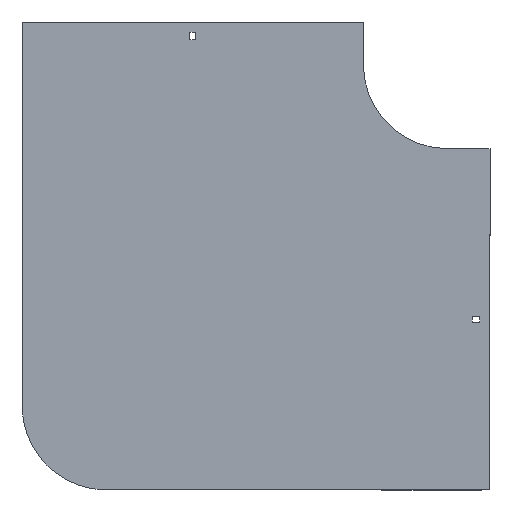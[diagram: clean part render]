
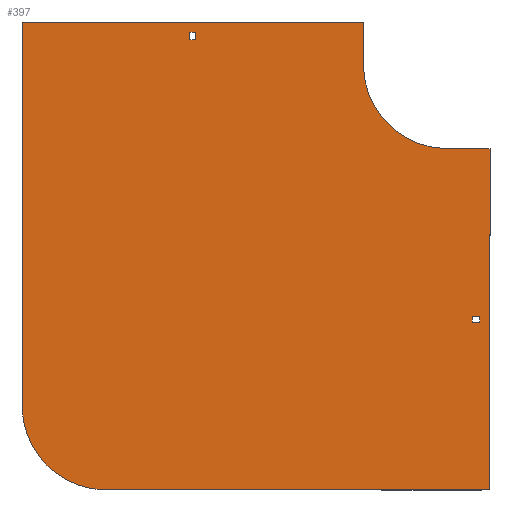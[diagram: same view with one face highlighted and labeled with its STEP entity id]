
A CAD part, front view. The second image highlights one B-rep face of the part: STEP entity #397.
In plain terms, the highlighted planar face has unit normal (0, -1, 0).
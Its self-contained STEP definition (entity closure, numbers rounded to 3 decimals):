
#5 = VECTOR ( 'NONE', #1516, 1000. ) ;
#21 = DIRECTION ( 'NONE',  ( 0., 0., 1. ) ) ;
#27 = VERTEX_POINT ( 'NONE', #1871 ) ;
#49 = VERTEX_POINT ( 'NONE', #1244 ) ;
#64 = VECTOR ( 'NONE', #1026, 1000. ) ;
#67 = EDGE_CURVE ( 'NONE', #1108, #333, #811, .T. ) ;
#70 = CARTESIAN_POINT ( 'NONE',  ( 29., 0., -305.25 ) ) ;
#72 = LINE ( 'NONE', #1107, #1093 ) ;
#89 = VECTOR ( 'NONE', #1649, 1000. ) ;
#102 = FACE_BOUND ( 'NONE', #958, .T. ) ;
#117 = CARTESIAN_POINT ( 'NONE',  ( 0., 0., -100. ) ) ;
#137 = EDGE_CURVE ( 'NONE', #1190, #1368, #903, .T. ) ;
#143 = LINE ( 'NONE', #559, #1104 ) ;
#146 = DIRECTION ( 'NONE',  ( -1., 0., 0. ) ) ;
#165 = EDGE_LOOP ( 'NONE', ( #484, #1584, #321, #557 ) ) ;
#179 = ORIENTED_EDGE ( 'NONE', *, *, #1350, .T. ) ;
#182 = ORIENTED_EDGE ( 'NONE', *, *, #707, .T. ) ;
#185 = CARTESIAN_POINT ( 'NONE',  ( -305.25, 0., 29. ) ) ;
#218 = DIRECTION ( 'NONE',  ( 0., -1., 0. ) ) ;
#252 = ORIENTED_EDGE ( 'NONE', *, *, #1777, .F. ) ;
#256 = FACE_OUTER_BOUND ( 'NONE', #1857, .T. ) ;
#266 = DIRECTION ( 'NONE',  ( 1., 0., 0. ) ) ;
#267 = CARTESIAN_POINT ( 'NONE',  ( -100., 0., 50. ) ) ;
#321 = ORIENTED_EDGE ( 'NONE', *, *, #917, .F. ) ;
#333 = VERTEX_POINT ( 'NONE', #1725 ) ;
#349 = CARTESIAN_POINT ( 'NONE',  ( -305.25, 0., 29. ) ) ;
#366 = CARTESIAN_POINT ( 'NONE',  ( -404., 0., -504. ) ) ;
#374 = EDGE_CURVE ( 'NONE', #1801, #738, #552, .T. ) ;
#381 = DIRECTION ( 'NONE',  ( 1., 0., 0. ) ) ;
#397 = ADVANCED_FACE ( 'NONE', ( #102, #256, #963 ), #1576, .T. ) ;
#423 = CARTESIAN_POINT ( 'NONE',  ( 50., 0., -100. ) ) ;
#445 = ORIENTED_EDGE ( 'NONE', *, *, #519, .F. ) ;
#451 = CARTESIAN_POINT ( 'NONE',  ( 50., 0., -100. ) ) ;
#479 = CARTESIAN_POINT ( 'NONE',  ( 0., 0., -100. ) ) ;
#484 = ORIENTED_EDGE ( 'NONE', *, *, #1116, .F. ) ;
#492 = EDGE_CURVE ( 'NONE', #1621, #1801, #836, .T. ) ;
#519 = EDGE_CURVE ( 'NONE', #738, #1386, #714, .T. ) ;
#552 = CIRCLE ( 'NONE', #1360, 100. ) ;
#557 = ORIENTED_EDGE ( 'NONE', *, *, #1377, .F. ) ;
#559 = CARTESIAN_POINT ( 'NONE',  ( 29., 0., -305.25 ) ) ;
#568 = LINE ( 'NONE', #889, #1495 ) ;
#577 = CARTESIAN_POINT ( 'NONE',  ( -100., 0., 0. ) ) ;
#584 = LINE ( 'NONE', #423, #649 ) ;
#608 = CARTESIAN_POINT ( 'NONE',  ( 29., 0., -305.25 ) ) ;
#624 = ORIENTED_EDGE ( 'NONE', *, *, #137, .T. ) ;
#649 = VECTOR ( 'NONE', #1658, 1000. ) ;
#656 = DIRECTION ( 'NONE',  ( 1., 0., 0. ) ) ;
#674 = DIRECTION ( 'NONE',  ( 0., 0., 1. ) ) ;
#678 = LINE ( 'NONE', #1599, #1434 ) ;
#688 = CARTESIAN_POINT ( 'NONE',  ( 29., 0., -298.75 ) ) ;
#707 = EDGE_CURVE ( 'NONE', #1368, #1082, #940, .T. ) ;
#714 = LINE ( 'NONE', #117, #1513 ) ;
#728 = LINE ( 'NONE', #1483, #1151 ) ;
#732 = DIRECTION ( 'NONE',  ( 0., -1., 0. ) ) ;
#733 = DIRECTION ( 'NONE',  ( 0., 0., -1. ) ) ;
#737 = VERTEX_POINT ( 'NONE', #1546 ) ;
#738 = VERTEX_POINT ( 'NONE', #479 ) ;
#757 = VERTEX_POINT ( 'NONE', #366 ) ;
#759 = VERTEX_POINT ( 'NONE', #688 ) ;
#773 = CARTESIAN_POINT ( 'NONE',  ( 38., 0., -305.25 ) ) ;
#776 = CARTESIAN_POINT ( 'NONE',  ( -404., 0., -404. ) ) ;
#811 = LINE ( 'NONE', #70, #1753 ) ;
#836 = LINE ( 'NONE', #1435, #1414 ) ;
#875 = CARTESIAN_POINT ( 'NONE',  ( 0., 0., 0. ) ) ;
#889 = CARTESIAN_POINT ( 'NONE',  ( 50., 0., -504. ) ) ;
#903 = LINE ( 'NONE', #1542, #89 ) ;
#917 = EDGE_CURVE ( 'NONE', #759, #1108, #143, .T. ) ;
#930 = DIRECTION ( 'NONE',  ( 0., 0., 1. ) ) ;
#936 = ORIENTED_EDGE ( 'NONE', *, *, #374, .F. ) ;
#940 = LINE ( 'NONE', #185, #5 ) ;
#958 = EDGE_LOOP ( 'NONE', ( #1731, #179, #624, #182 ) ) ;
#963 = FACE_BOUND ( 'NONE', #165, .T. ) ;
#1011 = ORIENTED_EDGE ( 'NONE', *, *, #1168, .F. ) ;
#1026 = DIRECTION ( 'NONE',  ( 1., 0., 0. ) ) ;
#1082 = VERTEX_POINT ( 'NONE', #1343 ) ;
#1093 = VECTOR ( 'NONE', #674, 1000. ) ;
#1104 = VECTOR ( 'NONE', #733, 1000. ) ;
#1107 = CARTESIAN_POINT ( 'NONE',  ( -504., 0., -404. ) ) ;
#1108 = VERTEX_POINT ( 'NONE', #608 ) ;
#1116 = EDGE_CURVE ( 'NONE', #333, #1758, #1502, .T. ) ;
#1133 = DIRECTION ( 'NONE',  ( 0., 0., -1. ) ) ;
#1137 = CARTESIAN_POINT ( 'NONE',  ( -305.25, 0., 38. ) ) ;
#1142 = AXIS2_PLACEMENT_3D ( 'NONE', #1902, #218, #1133 ) ;
#1151 = VECTOR ( 'NONE', #146, 1000. ) ;
#1165 = CARTESIAN_POINT ( 'NONE',  ( -298.75, 0., 29. ) ) ;
#1168 = EDGE_CURVE ( 'NONE', #49, #737, #72, .T. ) ;
#1190 = VERTEX_POINT ( 'NONE', #1730 ) ;
#1244 = CARTESIAN_POINT ( 'NONE',  ( -504., 0., -404. ) ) ;
#1299 = DIRECTION ( 'NONE',  ( 0., 0., -1. ) ) ;
#1306 = VECTOR ( 'NONE', #930, 1000. ) ;
#1343 = CARTESIAN_POINT ( 'NONE',  ( -305.25, 0., 29. ) ) ;
#1349 = EDGE_CURVE ( 'NONE', #1386, #27, #584, .T. ) ;
#1350 = EDGE_CURVE ( 'NONE', #1609, #1190, #1787, .T. ) ;
#1360 = AXIS2_PLACEMENT_3D ( 'NONE', #875, #732, #1803 ) ;
#1368 = VERTEX_POINT ( 'NONE', #1165 ) ;
#1373 = DIRECTION ( 'NONE',  ( 0., 0., 1. ) ) ;
#1376 = ORIENTED_EDGE ( 'NONE', *, *, #1349, .F. ) ;
#1377 = EDGE_CURVE ( 'NONE', #1758, #759, #728, .T. ) ;
#1386 = VERTEX_POINT ( 'NONE', #451 ) ;
#1414 = VECTOR ( 'NONE', #1299, 1000. ) ;
#1434 = VECTOR ( 'NONE', #656, 1000. ) ;
#1435 = CARTESIAN_POINT ( 'NONE',  ( -100., 0., 50. ) ) ;
#1482 = CARTESIAN_POINT ( 'NONE',  ( 38., 0., -298.75 ) ) ;
#1483 = CARTESIAN_POINT ( 'NONE',  ( 29., 0., -298.75 ) ) ;
#1495 = VECTOR ( 'NONE', #1779, 1000. ) ;
#1502 = LINE ( 'NONE', #773, #1306 ) ;
#1513 = VECTOR ( 'NONE', #266, 1000. ) ;
#1516 = DIRECTION ( 'NONE',  ( -1., 0., 0. ) ) ;
#1533 = VECTOR ( 'NONE', #1373, 1000. ) ;
#1542 = CARTESIAN_POINT ( 'NONE',  ( -298.75, 0., 29. ) ) ;
#1546 = CARTESIAN_POINT ( 'NONE',  ( -504., 0., 50. ) ) ;
#1576 = PLANE ( 'NONE',  #1142 ) ;
#1584 = ORIENTED_EDGE ( 'NONE', *, *, #67, .F. ) ;
#1599 = CARTESIAN_POINT ( 'NONE',  ( -504., 0., 50. ) ) ;
#1607 = CARTESIAN_POINT ( 'NONE',  ( -305.25, 0., 38. ) ) ;
#1609 = VERTEX_POINT ( 'NONE', #1607 ) ;
#1621 = VERTEX_POINT ( 'NONE', #267 ) ;
#1649 = DIRECTION ( 'NONE',  ( 0., 0., -1. ) ) ;
#1652 = EDGE_CURVE ( 'NONE', #737, #1621, #678, .T. ) ;
#1658 = DIRECTION ( 'NONE',  ( 0., 0., -1. ) ) ;
#1668 = DIRECTION ( 'NONE',  ( 0., 1., 0. ) ) ;
#1672 = ORIENTED_EDGE ( 'NONE', *, *, #492, .F. ) ;
#1702 = ORIENTED_EDGE ( 'NONE', *, *, #1652, .F. ) ;
#1725 = CARTESIAN_POINT ( 'NONE',  ( 38., 0., -305.25 ) ) ;
#1730 = CARTESIAN_POINT ( 'NONE',  ( -298.75, 0., 38. ) ) ;
#1731 = ORIENTED_EDGE ( 'NONE', *, *, #1819, .T. ) ;
#1753 = VECTOR ( 'NONE', #381, 1000. ) ;
#1758 = VERTEX_POINT ( 'NONE', #1482 ) ;
#1777 = EDGE_CURVE ( 'NONE', #27, #757, #568, .T. ) ;
#1779 = DIRECTION ( 'NONE',  ( -1., 0., 0. ) ) ;
#1782 = ORIENTED_EDGE ( 'NONE', *, *, #1859, .F. ) ;
#1787 = LINE ( 'NONE', #1137, #64 ) ;
#1801 = VERTEX_POINT ( 'NONE', #577 ) ;
#1803 = DIRECTION ( 'NONE',  ( 0., 0., -1. ) ) ;
#1819 = EDGE_CURVE ( 'NONE', #1082, #1609, #1939, .T. ) ;
#1857 = EDGE_LOOP ( 'NONE', ( #1702, #1011, #1782, #252, #1376, #445, #936, #1672 ) ) ;
#1859 = EDGE_CURVE ( 'NONE', #757, #49, #1918, .T. ) ;
#1871 = CARTESIAN_POINT ( 'NONE',  ( 50., 0., -504. ) ) ;
#1902 = CARTESIAN_POINT ( 'NONE',  ( 0., 0., 0. ) ) ;
#1917 = AXIS2_PLACEMENT_3D ( 'NONE', #776, #1668, #21 ) ;
#1918 = CIRCLE ( 'NONE', #1917, 100. ) ;
#1939 = LINE ( 'NONE', #349, #1533 ) ;
